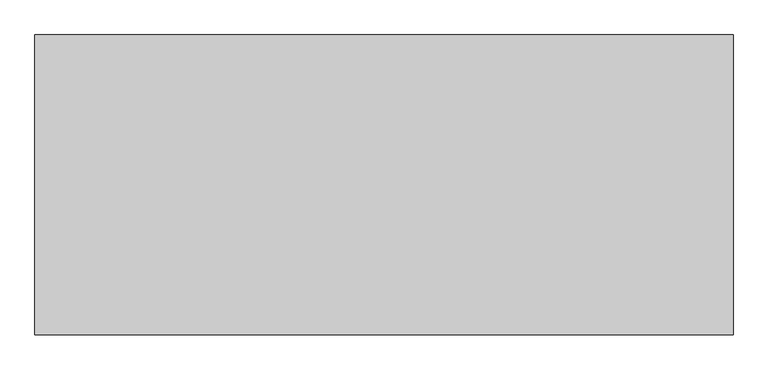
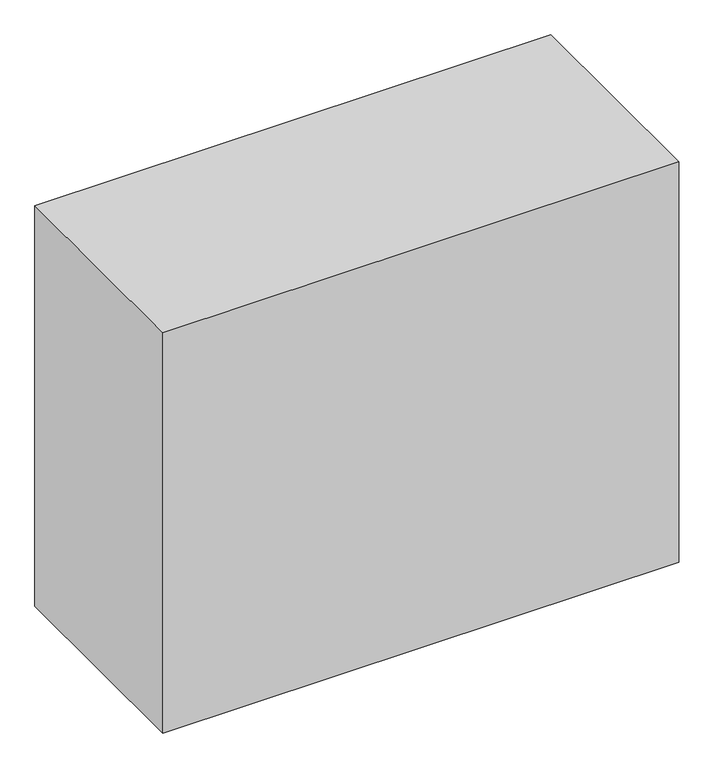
"""IFC4 building model written with IfcOpenShell, lengths in millimetres: proxy geometry, サービススペース : サービススペース."""

from ifc_helpers import new_model, si_unit, frame, origin, place, context, project, spatial, polyline, outline, extrude, source, transform, mapped, element, save


def specialty_equipment_9e616ede(model_context):
    return source(origin(), model_context, "Body", "SweptSolid", [
        extrude(outline(polyline([(2317.0, 995.0), (2317.0, -995.0), (-2317.0, -995.0), (-2317.0, 995.0), (2317.0, 995.0)])), frame((0.0, 0.0, -1901.0), z_axis=(0.0, 0.0, 1.0), x_axis=(1.0, 0.0, 0.0)), (0.0, 0.0, 1.0), 3802.0),
    ])


if __name__ == "__main__":
    model = new_model("IFC4")
    model_context = context("Model", 3, world=origin())
    ifc_project = project(units=[si_unit("LENGTHUNIT", "METRE", prefix="MILLI")], contexts=[model_context])
    site = spatial("IfcSite", under=ifc_project)
    building = spatial("IfcBuilding", under=site)
    placement = place(None, origin())
    specialty_equipment_shape = specialty_equipment_9e616ede(model_context)
    element("IfcBuildingElementProxy", 1, Name="サービススペース : サービススペース", ObjectType="サービススペース : サービススペース", at=placement, inside=building, context=model_context, shape_type="MappedRepresentation", body=[
        mapped(specialty_equipment_shape, transform((0.0, 0.0, 0.0), x_axis=(1.0, 0.0, 0.0), y_axis=(0.0, 1.0, 0.0), z_axis=(0.0, 0.0, 1.0))),
    ])
    save(model, "model.ifc")
